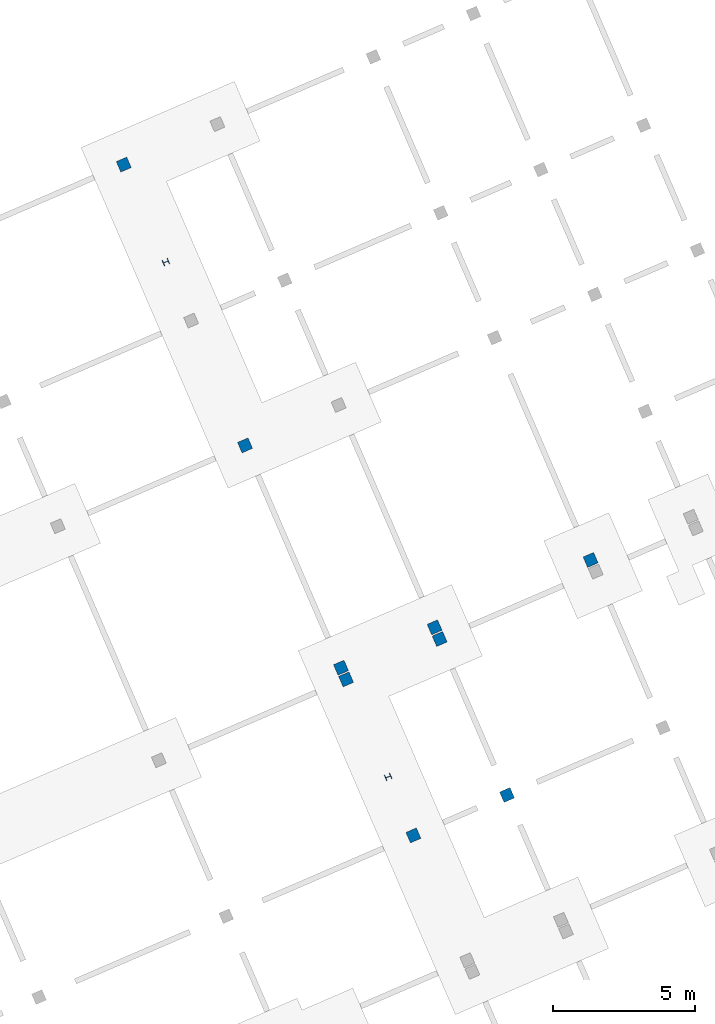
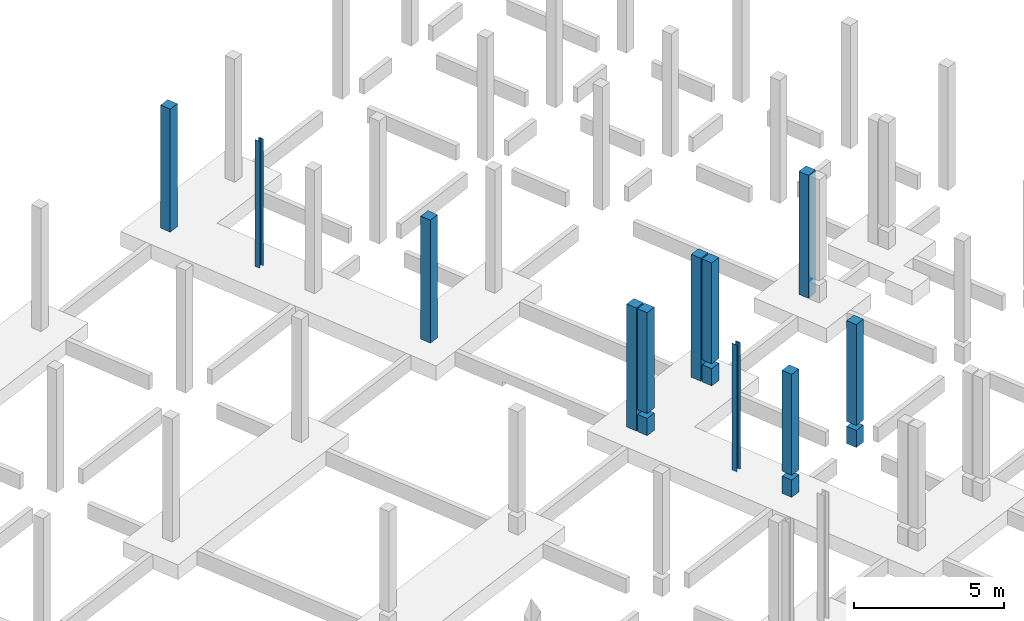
# One storey, part 6 of 11: 11 columns.
"""IFC4 building model written with IfcOpenShell, lengths in metres."""

from ifc_helpers import new_model, entity, si_unit, converted_unit, derived_unit, direction, frame, origin, place, context, subcontext, project, spatial, line, arc, indexed_curve, outline, extrude, source, transform, mapped, material, type_object, type_shapes, element, save


model = new_model("IFC4")

# Units and contexts
model_context = context("Model", 3, precision=1e-05, world=origin(), true_north=direction((6.12323399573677e-17, 1.0)))
body_context = subcontext(model_context, "Body", "Model", "MODEL_VIEW")
ifc_project = project(units=[si_unit("LENGTHUNIT", "METRE"), si_unit("AREAUNIT", "SQUARE_METRE"), si_unit("VOLUMEUNIT", "CUBIC_METRE"), converted_unit("PLANEANGLEUNIT", "DEGREE", entity("IfcPlaneAngleMeasure", 0.0174532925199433), si_unit("PLANEANGLEUNIT", "RADIAN"), dimensions=[0, 0, 0, 0, 0, 0, 0]), si_unit("MASSUNIT", "GRAM", prefix="KILO"), derived_unit("MOMENTOFINERTIAUNIT", [(si_unit("LENGTHUNIT", "METRE"), 4)]), derived_unit("LINEARFORCEUNIT", [(si_unit("MASSUNIT", "GRAM", prefix="KILO"), 1), (si_unit("TIMEUNIT", "SECOND"), -2)]), derived_unit("WARPINGCONSTANTUNIT", [(si_unit("LENGTHUNIT", "METRE"), 6)]), derived_unit("THERMALTRANSMITTANCEUNIT", [(si_unit("MASSUNIT", "GRAM", prefix="KILO"), 1), (si_unit("THERMODYNAMICTEMPERATUREUNIT", "KELVIN"), -1), (si_unit("TIMEUNIT", "SECOND"), -3)]), derived_unit("USERDEFINED", [(si_unit("MASSUNIT", "GRAM", prefix="KILO"), 1), (si_unit("TIMEUNIT", "SECOND"), -2), (si_unit("THERMODYNAMICTEMPERATUREUNIT", "KELVIN"), -1)]), derived_unit("THERMALRESISTANCEUNIT", [(si_unit("MASSUNIT", "GRAM", prefix="KILO"), -1), (si_unit("TIMEUNIT", "SECOND"), 3), (si_unit("THERMODYNAMICTEMPERATUREUNIT", "KELVIN"), 1)])], contexts=[model_context])

# Site, building, storey
site_placement = place(None, origin())
site = spatial("IfcSite", under=ifc_project, at=site_placement, Name="Default", CompositionType="ELEMENT")
building_placement = place(site_placement, frame((12.6613425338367, -82.5732315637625, 317.15), z_axis=(0.0, 0.0, 1.0), x_axis=(-0.396377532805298, 0.918087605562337, 0.0)))
building = spatial("IfcBuilding", under=site, at=building_placement, Name="CESFAM Coyhaique", CompositionType="ELEMENT")
storey_placement = place(building_placement, frame((0.0, 0.0, -0.950000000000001)))
storey = spatial("IfcBuildingStorey", under=building, at=storey_placement, Name="d_Fundaciones", CompositionType="ELEMENT", Elevation=-0.950000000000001)

# Columns
ifc_material_1 = material(Name="HA")
column_type_1 = type_object("IfcColumnType", Name="M_Concrete-Square-Column:400 x 400mm", PredefinedType="COLUMN", material=ifc_material_1)
shared_shape_1 = source(origin(), body_context, "Body", "SweptSolid", [
    extrude(outline(indexed_curve([(-0.199999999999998, -0.2), (0.200000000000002, -0.2), (0.200000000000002, 0.2), (-0.199999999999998, 0.2), (-0.199999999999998, -0.2)], self_intersect=False)), frame((28.7688534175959, -11.5971495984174, -0.950000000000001), z_axis=(0.0, 0.0, 1.0), x_axis=(-1.0, 0.0, 0.0)), (0.0, 0.0, 1.0), 0.7),
    extrude(outline(indexed_curve([(-0.199999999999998, -0.2), (0.200000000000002, -0.2), (0.200000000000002, 0.2), (-0.199999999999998, 0.2), (-0.199999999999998, -0.2)], self_intersect=False)), frame((28.7688534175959, -11.5971495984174, -0.0500000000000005), z_axis=(0.0, 0.0, 1.0), x_axis=(-1.0, 0.0, 0.0)), (0.0, 0.0, 1.0), 4.10000000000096),
])
type_shapes(column_type_1, [shared_shape_1])
column_1_placement = place(storey_placement, frame((0.0, 0.0, 0.950000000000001)))
element("IfcColumn", 1, at=column_1_placement, inside=storey, type_object=column_type_1, Name="M_Concrete-Square-Column:400 x 400mm", ObjectType="M_Concrete-Square-Column:400 x 400mm", PredefinedType="COLUMN", context=body_context, shape_type="MappedRepresentation", body=[
    mapped(shared_shape_1, transform((0.0, 0.0, 0.0), scale=1.0)),
])
column_type_2 = type_object("IfcColumnType", Name="M_Concrete-Square-Column:400 x 400mm", PredefinedType="COLUMN", material=ifc_material_1)
shared_shape_2 = source(origin(), body_context, "Body", "SweptSolid", [
    extrude(outline(indexed_curve([(-0.199999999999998, -0.2), (0.200000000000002, -0.2), (0.200000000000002, 0.2), (-0.199999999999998, 0.2), (-0.199999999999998, -0.2)], self_intersect=False)), frame((34.768853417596, -11.5971495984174, -0.950000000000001), z_axis=(0.0, 0.0, 1.0), x_axis=(-1.0, 0.0, 0.0)), (0.0, 0.0, 1.0), 0.7),
    extrude(outline(indexed_curve([(-0.199999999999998, -0.2), (0.200000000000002, -0.2), (0.200000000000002, 0.2), (-0.199999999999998, 0.2), (-0.199999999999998, -0.2)], self_intersect=False)), frame((34.768853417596, -11.5971495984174, -0.0500000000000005), z_axis=(0.0, 0.0, 1.0), x_axis=(-1.0, 0.0, 0.0)), (0.0, 0.0, 1.0), 4.10000000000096),
])
type_shapes(column_type_2, [shared_shape_2])
column_2_placement = place(storey_placement, frame((0.0, 0.0, 0.950000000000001)))
element("IfcColumn", 2, at=column_2_placement, inside=storey, type_object=column_type_2, Name="M_Concrete-Square-Column:400 x 400mm", ObjectType="M_Concrete-Square-Column:400 x 400mm", PredefinedType="COLUMN", context=body_context, shape_type="MappedRepresentation", body=[
    mapped(shared_shape_2, transform((0.0, 0.0, 0.0), scale=1.0)),
])
column_type_3 = type_object("IfcColumnType", Name="M_Concrete-Square-Column:400 x 400mm", PredefinedType="COLUMN", material=ifc_material_1)
shared_shape_3 = source(origin(), body_context, "Body", "SweptSolid", [
    extrude(outline(indexed_curve([(-0.199999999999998, -0.2), (0.199999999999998, -0.2), (0.199999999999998, 0.2), (-0.199999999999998, 0.2), (-0.199999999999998, -0.2)], self_intersect=False)), frame((43.7688534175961, -11.5971495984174, -0.950000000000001), z_axis=(0.0, 0.0, 1.0), x_axis=(-1.0, 0.0, 0.0)), (0.0, 0.0, 1.0), 5.00000000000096),
])
type_shapes(column_type_3, [shared_shape_3])
column_3_placement = place(storey_placement, frame((0.0, 0.0, 0.950000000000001)))
element("IfcColumn", 3, at=column_3_placement, inside=storey, type_object=column_type_3, Name="M_Concrete-Square-Column:400 x 400mm", ObjectType="M_Concrete-Square-Column:400 x 400mm", PredefinedType="COLUMN", context=body_context, shape_type="MappedRepresentation", body=[
    mapped(shared_shape_3, transform((0.0, 0.0, 0.0), scale=1.0)),
])
column_type_4 = type_object("IfcColumnType", Name="M_Concrete-Square-Column:400 x 400mm", PredefinedType="COLUMN", material=ifc_material_1)
shared_shape_4 = source(origin(), body_context, "Body", "SweptSolid", [
    extrude(outline(indexed_curve([(-0.199999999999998, -0.2), (0.199999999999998, -0.2), (0.199999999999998, 0.2), (-0.199999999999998, 0.2), (-0.199999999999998, -0.2)], self_intersect=False)), frame((54.5688534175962, -11.5971495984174, -0.950000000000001), z_axis=(0.0, 0.0, 1.0), x_axis=(-1.0, 0.0, 0.0)), (0.0, 0.0, 1.0), 5.00000000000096),
])
type_shapes(column_type_4, [shared_shape_4])
column_4_placement = place(storey_placement, frame((0.0, 0.0, 0.950000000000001)))
element("IfcColumn", 4, at=column_4_placement, inside=storey, type_object=column_type_4, Name="M_Concrete-Square-Column:400 x 400mm", ObjectType="M_Concrete-Square-Column:400 x 400mm", PredefinedType="COLUMN", context=body_context, shape_type="MappedRepresentation", body=[
    mapped(shared_shape_4, transform((0.0, 0.0, 0.0), scale=1.0)),
])
column_type_5 = type_object("IfcColumnType", Name="M_Concrete-Square-Column:400 x 400mm", PredefinedType="COLUMN", material=ifc_material_1)
shared_shape_5 = source(origin(), body_context, "Body", "SweptSolid", [
    extrude(outline(indexed_curve([(-0.200000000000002, -0.2), (0.199999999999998, -0.2), (0.199999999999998, 0.2), (-0.200000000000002, 0.2), (-0.200000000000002, -0.2)], self_intersect=False)), frame((28.7688534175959, -15.1971495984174, -0.950000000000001), z_axis=(0.0, 0.0, 1.0), x_axis=(-1.0, 0.0, 0.0)), (0.0, 0.0, 1.0), 0.7),
    extrude(outline(indexed_curve([(-0.200000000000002, -0.2), (0.199999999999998, -0.2), (0.199999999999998, 0.2), (-0.200000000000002, 0.2), (-0.200000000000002, -0.2)], self_intersect=False)), frame((28.7688534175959, -15.1971495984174, -0.0500000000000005), z_axis=(0.0, 0.0, 1.0), x_axis=(-1.0, 0.0, 0.0)), (0.0, 0.0, 1.0), 4.10000000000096),
])
type_shapes(column_type_5, [shared_shape_5])
column_5_placement = place(storey_placement, frame((0.0, 0.0, 0.950000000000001)))
element("IfcColumn", 5, at=column_5_placement, inside=storey, type_object=column_type_5, Name="M_Concrete-Square-Column:400 x 400mm", ObjectType="M_Concrete-Square-Column:400 x 400mm", PredefinedType="COLUMN", context=body_context, shape_type="MappedRepresentation", body=[
    mapped(shared_shape_5, transform((0.0, 0.0, 0.0), scale=1.0)),
])
column_type_6 = type_object("IfcColumnType", Name="M_Concrete-Square-Column:400 x 400mm", PredefinedType="COLUMN", material=ifc_material_1)
shared_shape_6 = source(origin(), body_context, "Body", "SweptSolid", [
    extrude(outline(indexed_curve([(-0.199999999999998, -0.2), (0.200000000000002, -0.2), (0.200000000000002, 0.2), (-0.199999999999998, 0.2), (-0.199999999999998, -0.2)], self_intersect=False)), frame((34.768853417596, -15.1971495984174, -0.950000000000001), z_axis=(0.0, 0.0, 1.0), x_axis=(-1.0, 0.0, 0.0)), (0.0, 0.0, 1.0), 0.7),
    extrude(outline(indexed_curve([(-0.199999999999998, -0.2), (0.200000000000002, -0.2), (0.200000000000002, 0.2), (-0.199999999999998, 0.2), (-0.199999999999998, -0.2)], self_intersect=False)), frame((34.768853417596, -15.1971495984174, -0.0500000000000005), z_axis=(0.0, 0.0, 1.0), x_axis=(-1.0, 0.0, 0.0)), (0.0, 0.0, 1.0), 4.10000000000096),
])
type_shapes(column_type_6, [shared_shape_6])
column_6_placement = place(storey_placement, frame((0.0, 0.0, 0.950000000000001)))
element("IfcColumn", 6, at=column_6_placement, inside=storey, type_object=column_type_6, Name="M_Concrete-Square-Column:400 x 400mm", ObjectType="M_Concrete-Square-Column:400 x 400mm", PredefinedType="COLUMN", context=body_context, shape_type="MappedRepresentation", body=[
    mapped(shared_shape_6, transform((0.0, 0.0, 0.0), scale=1.0)),
])
column_type_7 = type_object("IfcColumnType", Name="M_Concrete-Square-Column:400 x 400mm", PredefinedType="COLUMN", material=ifc_material_1)
shared_shape_7 = source(origin(), body_context, "Body", "SweptSolid", [
    extrude(outline(indexed_curve([(-0.200000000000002, -0.2), (0.199999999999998, -0.2), (0.199999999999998, 0.2), (-0.200000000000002, 0.2), (-0.200000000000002, -0.2)], self_intersect=False)), frame((35.2188534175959, -11.5971495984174, -0.950000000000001), z_axis=(0.0, 0.0, 1.0), x_axis=(-1.0, 0.0, 0.0)), (0.0, 0.0, 1.0), 5.00000000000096),
])
type_shapes(column_type_7, [shared_shape_7])
column_7_placement = place(storey_placement, frame((0.0, 0.0, 0.950000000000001)))
element("IfcColumn", 7, at=column_7_placement, inside=storey, type_object=column_type_7, Name="M_Concrete-Square-Column:400 x 400mm", ObjectType="M_Concrete-Square-Column:400 x 400mm", PredefinedType="COLUMN", context=body_context, shape_type="MappedRepresentation", body=[
    mapped(shared_shape_7, transform((0.0, 0.0, 0.0), scale=1.0)),
])
column_type_8 = type_object("IfcColumnType", Name="M_Concrete-Square-Column:400 x 400mm", PredefinedType="COLUMN", material=ifc_material_1)
shared_shape_8 = source(origin(), body_context, "Body", "SweptSolid", [
    extrude(outline(indexed_curve([(-0.200000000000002, -0.199999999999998), (0.199999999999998, -0.199999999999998), (0.199999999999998, 0.200000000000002), (-0.200000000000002, 0.200000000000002), (-0.200000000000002, -0.199999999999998)], self_intersect=False)), frame((35.2188534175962, -21.197149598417, -0.950000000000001), z_axis=(0.0, 0.0, 1.0), x_axis=(-1.0, 0.0, 0.0)), (0.0, 0.0, 1.0), 5.00000000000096),
])
type_shapes(column_type_8, [shared_shape_8])
column_8_placement = place(storey_placement, frame((0.0, 0.0, 0.950000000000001)))
element("IfcColumn", 8, at=column_8_placement, inside=storey, type_object=column_type_8, Name="M_Concrete-Square-Column:400 x 400mm", ObjectType="M_Concrete-Square-Column:400 x 400mm", PredefinedType="COLUMN", context=body_context, shape_type="MappedRepresentation", body=[
    mapped(shared_shape_8, transform((0.0, 0.0, 0.0), scale=1.0)),
])
column_type_9 = type_object("IfcColumnType", Name="M_Concrete-Square-Column:400 x 400mm", PredefinedType="COLUMN", material=ifc_material_1)
shared_shape_9 = source(origin(), body_context, "Body", "SweptSolid", [
    extrude(outline(indexed_curve([(-0.200000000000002, -0.2), (0.199999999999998, -0.2), (0.199999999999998, 0.2), (-0.200000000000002, 0.2), (-0.200000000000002, -0.2)], self_intersect=False)), frame((35.2188534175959, -15.1971495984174, -0.950000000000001), z_axis=(0.0, 0.0, 1.0), x_axis=(-1.0, 0.0, 0.0)), (0.0, 0.0, 1.0), 5.00000000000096),
])
type_shapes(column_type_9, [shared_shape_9])
column_9_placement = place(storey_placement, frame((0.0, 0.0, 0.950000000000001)))
element("IfcColumn", 9, at=column_9_placement, inside=storey, type_object=column_type_9, Name="M_Concrete-Square-Column:400 x 400mm", ObjectType="M_Concrete-Square-Column:400 x 400mm", PredefinedType="COLUMN", context=body_context, shape_type="MappedRepresentation", body=[
    mapped(shared_shape_9, transform((0.0, 0.0, 0.0), scale=1.0)),
])
ifc_material_2 = material(Name="Steel, 45-345", Category="Metal")
column_type_10 = type_object("IfcColumnType", Name="M_W Shapes-Column:HEA 200", PredefinedType="COLUMN", material=ifc_material_2)
shared_shape_10 = source(origin(), body_context, "Body", "SweptSolid", [
    extrude(outline(indexed_curve([(-0.0999999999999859, -0.0999999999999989), (0.100000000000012, -0.0999999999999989), (0.100000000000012, -0.0889999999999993), (0.0163850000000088, -0.0889999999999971), (0.00740474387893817, -0.0852802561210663), (0.00368500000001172, -0.0762999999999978), (0.00368500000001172, 0.0763000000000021), (0.00740474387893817, 0.0852802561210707), (0.0163850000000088, 0.0890000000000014), (0.100000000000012, 0.0890000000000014), (0.100000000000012, 0.100000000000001), (-0.0999999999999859, 0.100000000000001), (-0.0999999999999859, 0.0890000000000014), (-0.0163849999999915, 0.0890000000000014), (-0.00740474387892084, 0.0852802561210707), (-0.00368499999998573, 0.0763000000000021), (-0.0036849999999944, -0.0762999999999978), (-0.00740474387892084, -0.0852802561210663), (-0.0163849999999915, -0.0889999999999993), (-0.0999999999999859, -0.0889999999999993)], segments=[line(1, 2, 3, 4), arc(4, 5, 6), line(6, 7), arc(7, 8, 9), line(9, 10, 11, 12, 13, 14), arc(14, 15, 16), line(16, 17), arc(17, 18, 19), line(19, 20, 1)], self_intersect=False)), frame((50.8188534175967, -11.5971495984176, -0.950000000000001), z_axis=(0.0, 0.0, 1.0), x_axis=(-1.0, 0.0, 0.0)), (0.0, 0.0, 1.0), 5.15000000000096),
])
type_shapes(column_type_10, [shared_shape_10])
column_10_placement = place(storey_placement, frame((0.0, 0.0, 0.950000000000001)))
element("IfcColumn", 10, at=column_10_placement, inside=storey, type_object=column_type_10, Name="M_W Shapes-Column:HEA 200", ObjectType="M_W Shapes-Column:HEA 200", PredefinedType="COLUMN", context=body_context, shape_type="MappedRepresentation", body=[
    mapped(shared_shape_10, transform((0.0, 0.0, 0.0), scale=1.0)),
])
column_type_11 = type_object("IfcColumnType", Name="M_W Shapes-Column:HEA 200", PredefinedType="COLUMN", material=ifc_material_2)
shared_shape_11 = source(origin(), body_context, "Body", "SweptSolid", [
    extrude(outline(indexed_curve([(-0.0999999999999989, -0.0999999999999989), (0.0999999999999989, -0.0999999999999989), (0.0999999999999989, -0.0889999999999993), (0.0163850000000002, -0.0889999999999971), (0.0074047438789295, -0.0852802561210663), (0.00368499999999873, -0.0762999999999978), (0.00368499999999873, 0.0763000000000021), (0.0074047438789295, 0.0852802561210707), (0.0163850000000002, 0.0890000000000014), (0.0999999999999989, 0.0890000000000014), (0.0999999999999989, 0.100000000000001), (-0.0999999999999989, 0.100000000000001), (-0.0999999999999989, 0.0890000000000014), (-0.0163850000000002, 0.0890000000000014), (-0.0074047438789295, 0.0852802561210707), (-0.00368500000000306, 0.0763000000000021), (-0.00368499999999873, -0.0762999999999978), (-0.0074047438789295, -0.0852802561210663), (-0.0163850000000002, -0.0889999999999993), (-0.0999999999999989, -0.0889999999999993)], segments=[line(1, 2, 3, 4), arc(4, 5, 6), line(6, 7), arc(7, 8, 9), line(9, 10, 11, 12, 13, 14), arc(14, 15, 16), line(16, 17), arc(17, 18, 19), line(19, 20, 1)], self_intersect=False)), frame((31.0188534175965, -11.5971495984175, -0.950000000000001), z_axis=(0.0, 0.0, 1.0), x_axis=(-1.0, 0.0, 0.0)), (0.0, 0.0, 1.0), 5.15000000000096),
])
type_shapes(column_type_11, [shared_shape_11])
column_11_placement = place(storey_placement, frame((0.0, 0.0, 0.950000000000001)))
element("IfcColumn", 11, at=column_11_placement, inside=storey, type_object=column_type_11, Name="M_W Shapes-Column:HEA 200", ObjectType="M_W Shapes-Column:HEA 200", PredefinedType="COLUMN", context=body_context, shape_type="MappedRepresentation", body=[
    mapped(shared_shape_11, transform((0.0, 0.0, 0.0), scale=1.0)),
])

save(model, "model.ifc")
